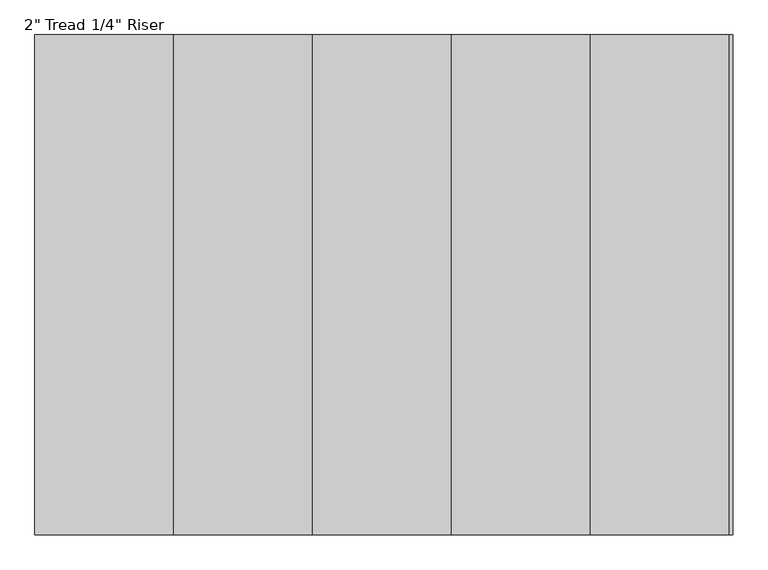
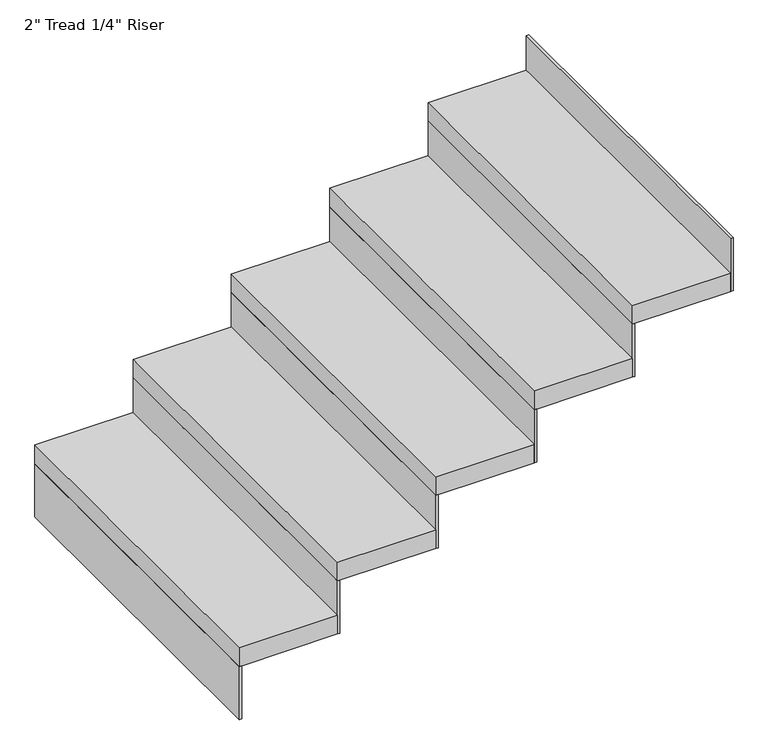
"""IFC4 building model written with IfcOpenShell, lengths in millimetres: stair flight geometry."""

from ifc_helpers import new_model, si_unit, frame, origin, place, context, project, spatial, polyline, outline, extrude, source, transform, mapped, element, save


def stair_flight_372f6492(model_context):
    return source(origin(), model_context, "Body", "SweptSolid", [
        extrude(outline(polyline([(36492.6766433, -2482.2469585), (36486.3266433, -2482.2469585), (36486.3266433, -1567.8469585), (36492.6766433, -1567.8469585), (36492.6766433, -2482.2469585)])), frame((0.0, 0.0, 2126.3428571), z_axis=(0.0, 0.0, 1.0), x_axis=(1.0, 0.0, 0.0)), (0.0, 0.0, 1.0), 145.1428571),
        extrude(outline(polyline([(36740.3266433, -1567.8469585), (36740.3266433, -2482.2469585), (36486.3266433, -2482.2469585), (36486.3266433, -1567.8469585), (36740.3266433, -1567.8469585)])), frame((0.0, 0.0, 2271.4857143), z_axis=(0.0, 0.0, 1.0), x_axis=(1.0, 0.0, 0.0)), (0.0, 0.0, 1.0), 50.8),
        extrude(outline(polyline([(36746.6766433, -2482.2469585), (36740.3266433, -2482.2469585), (36740.3266433, -1567.8469585), (36746.6766433, -1567.8469585), (36746.6766433, -2482.2469585)])), frame((0.0, 0.0, 2271.4857143), z_axis=(0.0, 0.0, 1.0), x_axis=(1.0, 0.0, 0.0)), (0.0, 0.0, 1.0), 145.1428571),
        extrude(outline(polyline([(36994.3266433, -1567.8469585), (36994.3266433, -2482.2469585), (36740.3266433, -2482.2469585), (36740.3266433, -1567.8469585), (36994.3266433, -1567.8469585)])), frame((0.0, 0.0, 2416.6285714), z_axis=(0.0, 0.0, 1.0), x_axis=(1.0, 0.0, 0.0)), (0.0, 0.0, 1.0), 50.8),
        extrude(outline(polyline([(37000.6766433, -2482.2469585), (36994.3266433, -2482.2469585), (36994.3266433, -1567.8469585), (37000.6766433, -1567.8469585), (37000.6766433, -2482.2469585)])), frame((0.0, 0.0, 2416.6285714), z_axis=(0.0, 0.0, 1.0), x_axis=(1.0, 0.0, 0.0)), (0.0, 0.0, 1.0), 145.1428571),
        extrude(outline(polyline([(37248.3266433, -1567.8469585), (37248.3266433, -2482.2469585), (36994.3266433, -2482.2469585), (36994.3266433, -1567.8469585), (37248.3266433, -1567.8469585)])), frame((0.0, 0.0, 2561.7714286), z_axis=(0.0, 0.0, 1.0), x_axis=(1.0, 0.0, 0.0)), (0.0, 0.0, 1.0), 50.8),
        extrude(outline(polyline([(37254.6766433, -2482.2469585), (37248.3266433, -2482.2469585), (37248.3266433, -1567.8469585), (37254.6766433, -1567.8469585), (37254.6766433, -2482.2469585)])), frame((0.0, 0.0, 2561.7714286), z_axis=(0.0, 0.0, 1.0), x_axis=(1.0, 0.0, 0.0)), (0.0, 0.0, 1.0), 145.1428571),
        extrude(outline(polyline([(37502.3266433, -1567.8469585), (37502.3266433, -2482.2469585), (37248.3266433, -2482.2469585), (37248.3266433, -1567.8469585), (37502.3266433, -1567.8469585)])), frame((0.0, 0.0, 2706.9142857), z_axis=(0.0, 0.0, 1.0), x_axis=(1.0, 0.0, 0.0)), (0.0, 0.0, 1.0), 50.8),
        extrude(outline(polyline([(37508.6766433, -2482.2469585), (37502.3266433, -2482.2469585), (37502.3266433, -1567.8469585), (37508.6766433, -1567.8469585), (37508.6766433, -2482.2469585)])), frame((0.0, 0.0, 2706.9142857), z_axis=(0.0, 0.0, 1.0), x_axis=(1.0, 0.0, 0.0)), (0.0, 0.0, 1.0), 145.1428571),
        extrude(outline(polyline([(37762.6766433, -2482.2469585), (37756.3266433, -2482.2469585), (37756.3266433, -1567.8469585), (37762.6766433, -1567.8469585), (37762.6766433, -2482.2469585)])), frame((0.0, 0.0, 2852.0571429), z_axis=(0.0, 0.0, 1.0), x_axis=(1.0, 0.0, 0.0)), (0.0, 0.0, 1.0), 145.1428571),
        extrude(outline(polyline([(37756.3266433, -1567.8469585), (37756.3266433, -2482.2469585), (37502.3266433, -2482.2469585), (37502.3266433, -1567.8469585), (37756.3266433, -1567.8469585)])), frame((0.0, 0.0, 2852.0571429), z_axis=(0.0, 0.0, 1.0), x_axis=(1.0, 0.0, 0.0)), (0.0, 0.0, 1.0), 50.8),
    ])


if __name__ == "__main__":
    model = new_model("IFC4")
    model_context = context("Model", 3, world=origin())
    ifc_project = project(units=[si_unit("LENGTHUNIT", "METRE", prefix="MILLI")], contexts=[model_context])
    site = spatial("IfcSite", under=ifc_project)
    building = spatial("IfcBuilding", under=site)
    placement = place(None, origin())
    stair_flight_shape = stair_flight_372f6492(model_context)
    element("IfcStairFlight", 1, ObjectType="2\" Tread 1/4\" Riser", at=placement, inside=building, context=model_context, shape_type="MappedRepresentation", body=[
        mapped(stair_flight_shape, transform((0.0, 0.0, 0.0), x_axis=(1.0, 0.0, 0.0), y_axis=(0.0, 1.0, 0.0), z_axis=(0.0, 0.0, 1.0))),
    ])
    save(model, "model.ifc")
